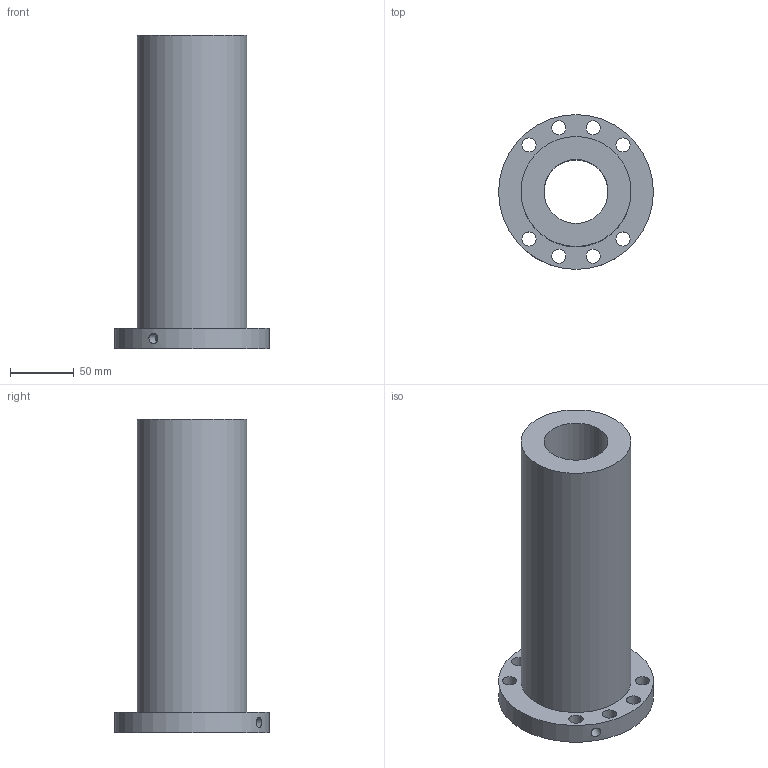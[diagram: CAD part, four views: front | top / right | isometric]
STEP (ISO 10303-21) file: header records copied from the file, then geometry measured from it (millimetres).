
FILE_DESCRIPTION(/* description */ (''),/* implementation_level */ '2;1');
FILE_NAME(/* name */ '50-20K4_9525',/* time_stamp */ '2007-10-15T12:53:54+08:00',/* author */ (''),/* organization */ (''),/* preprocessor_version */ 'ST-DEVELOPER v11',/* originating_system */ 'UGS - NX 5.0',/* authorisation */ '');
FILE_SCHEMA (('CONFIG_CONTROL_DESIGN'));
Length unit declared in the file: millimetre
Products named in the file (1): 50-20K4_9525
Bounding box: 121 x 121 x 245 mm (x, y, z)
Volume: 1019757.3 mm3; surface area: 129086.5 mm2
Topology: 1 solids, 1 shells, 17 faces, 40 edges, 27 vertices
Faces by surface type: cylinder 13, plane 4
Full cylindrical faces by diameter (mm): 6 x1, 8 x1, 11 x8, 50 x1, 86 x1, 121 x1
Entity records: 668 total; most frequent: CARTESIAN_POINT 184, DIRECTION 84, FACE_BOUND 52, EDGE_LOOP 52, ORIENTED_EDGE 52, AXIS2_PLACEMENT_3D 42, VERTEX_POINT 26, EDGE_CURVE 26
